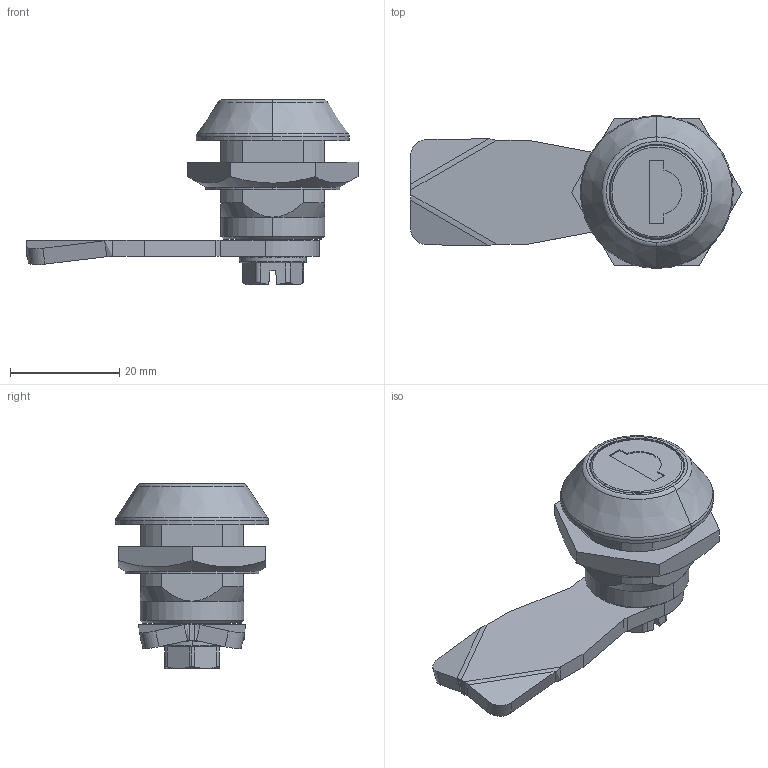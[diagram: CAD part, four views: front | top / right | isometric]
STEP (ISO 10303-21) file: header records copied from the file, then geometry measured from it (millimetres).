
FILE_DESCRIPTION (( 'STEP AP214' ), '1' );
FILE_NAME ('M22W - 180.STEP', '2016-09-08T10:03:53', ( '' ), ( '' ), 'SwSTEP 2.0', 'SolidWorks 2015', '' );
FILE_SCHEMA (( 'AUTOMOTIVE_DESIGN' ));
Length unit declared in the file: millimetre
Products named in the file (6): 2.NKR_M22 - A1; DIN 6921_M6x6; 1C.J-1XX.GH.L_#3, 1.00.18.45; Wk³adka 1333_1333 IP; 2.K.M22W.001_180; M22W - 180
Assembly tree (5 placements, depth 2):
  M22W - 180
    2.K.M22W.001_180
    Wk³adka 1333_1333 IP
    1C.J-1XX.GH.L_#3, 1.00.18.45
    DIN 6921_M6x6
    2.NKR_M22 - A1
Bounding box: 60.75 x 28 x 33.9 mm (x, y, z)
Volume: 12913.2 mm3; surface area: 9545.7 mm2
Topology: 5 solids, 5 shells, 302 faces, 770 edges, 493 vertices
Faces by surface type: plane 174, cylinder 77, cone 34, torus 13, bspline 4
Entity records: 9651 total; most frequent: CARTESIAN_POINT 2281, ORIENTED_EDGE 1536, DIRECTION 1416, EDGE_CURVE 768, AXIS2_PLACEMENT_3D 519, VERTEX_POINT 493, VECTOR 378, LINE 378
